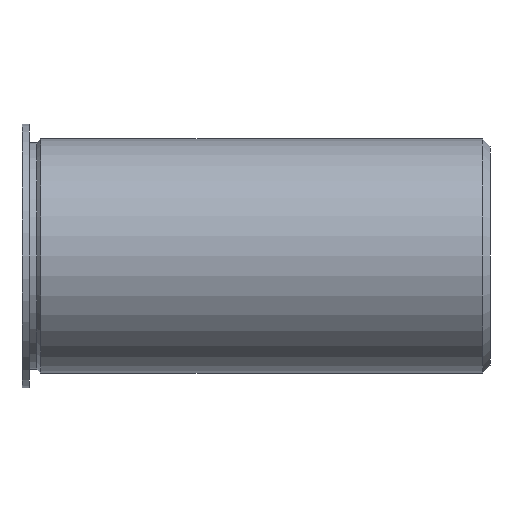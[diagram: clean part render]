
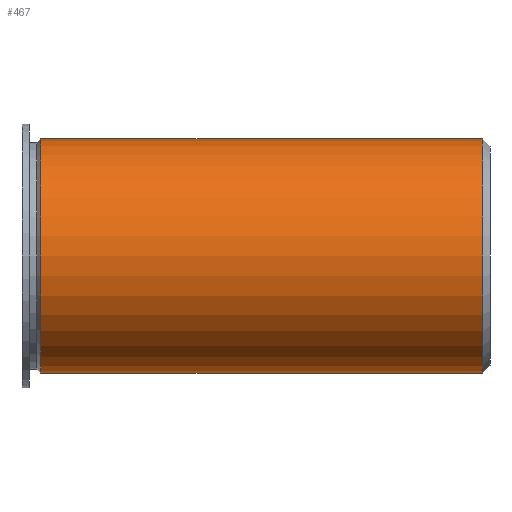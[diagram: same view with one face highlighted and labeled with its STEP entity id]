
A CAD part, front view. The second image highlights one B-rep face of the part: STEP entity #467.
In plain terms, the highlighted cylindrical face has radius 3.969 mm (diameter 7.938 mm), a partial arc.
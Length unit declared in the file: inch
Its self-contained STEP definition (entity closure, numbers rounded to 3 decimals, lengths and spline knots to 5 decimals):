
#1 = DIRECTION ( 'NONE',  ( -1., 0., 0. ) ) ;
#9 = CARTESIAN_POINT ( 'NONE',  ( -2.40024, 3.72648, -0.15625 ) ) ;
#15 = AXIS2_PLACEMENT_3D ( 'NONE', #323, #317, #313 ) ;
#23 = DIRECTION ( 'NONE',  ( -1., 0., 0. ) ) ;
#27 = CARTESIAN_POINT ( 'NONE',  ( -2.40024, 3.72648, 0.15625 ) ) ;
#28 = VERTEX_POINT ( 'NONE', #453 ) ;
#29 = ORIENTED_EDGE ( 'NONE', *, *, #462, .F. ) ;
#31 = EDGE_LOOP ( 'NONE', ( #320, #167, #279, #29 ) ) ;
#58 = CYLINDRICAL_SURFACE ( 'NONE', #115, 0.15625 ) ;
#60 = LINE ( 'NONE', #27, #74 ) ;
#61 = VERTEX_POINT ( 'NONE', #500 ) ;
#64 = DIRECTION ( 'NONE',  ( 0., 0., 1. ) ) ;
#73 = VERTEX_POINT ( 'NONE', #134 ) ;
#74 = VECTOR ( 'NONE', #1, 39.37008 ) ;
#115 = AXIS2_PLACEMENT_3D ( 'NONE', #524, #501, #64 ) ;
#134 = CARTESIAN_POINT ( 'NONE',  ( -2.37524, 3.72648, 0.15625 ) ) ;
#135 = FACE_OUTER_BOUND ( 'NONE', #31, .T. ) ;
#148 = CIRCLE ( 'NONE', #244, 0.15625 ) ;
#167 = ORIENTED_EDGE ( 'NONE', *, *, #494, .T. ) ;
#244 = AXIS2_PLACEMENT_3D ( 'NONE', #529, #527, #526 ) ;
#276 = LINE ( 'NONE', #9, #550 ) ;
#279 = ORIENTED_EDGE ( 'NONE', *, *, #326, .T. ) ;
#303 = EDGE_CURVE ( 'NONE', #28, #434, #276, .T. ) ;
#313 = DIRECTION ( 'NONE',  ( 0., 0., 1. ) ) ;
#314 = CARTESIAN_POINT ( 'NONE',  ( -2.37524, 3.72648, -0.15625 ) ) ;
#317 = DIRECTION ( 'NONE',  ( -1., 0., 0. ) ) ;
#320 = ORIENTED_EDGE ( 'NONE', *, *, #303, .F. ) ;
#323 = CARTESIAN_POINT ( 'NONE',  ( -1.78524, 3.72648, 0. ) ) ;
#326 = EDGE_CURVE ( 'NONE', #61, #73, #60, .T. ) ;
#434 = VERTEX_POINT ( 'NONE', #314 ) ;
#453 = CARTESIAN_POINT ( 'NONE',  ( -1.78524, 3.72648, -0.15625 ) ) ;
#462 = EDGE_CURVE ( 'NONE', #434, #73, #148, .T. ) ;
#467 = ADVANCED_FACE ( 'NONE', ( #135 ), #58, .T. ) ;
#494 = EDGE_CURVE ( 'NONE', #28, #61, #510, .T. ) ;
#500 = CARTESIAN_POINT ( 'NONE',  ( -1.78524, 3.72648, 0.15625 ) ) ;
#501 = DIRECTION ( 'NONE',  ( -1., 0., 0. ) ) ;
#510 = CIRCLE ( 'NONE', #15, 0.15625 ) ;
#524 = CARTESIAN_POINT ( 'NONE',  ( -2.40024, 3.72648, 0. ) ) ;
#526 = DIRECTION ( 'NONE',  ( 0., 0., 1. ) ) ;
#527 = DIRECTION ( 'NONE',  ( -1., 0., 0. ) ) ;
#529 = CARTESIAN_POINT ( 'NONE',  ( -2.37524, 3.72648, 0. ) ) ;
#550 = VECTOR ( 'NONE', #23, 39.37008 ) ;
